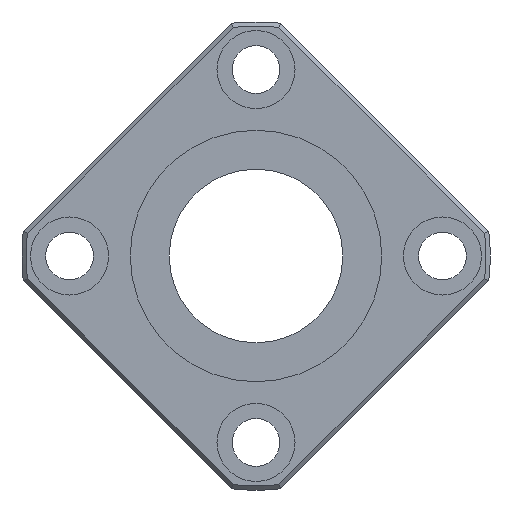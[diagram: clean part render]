
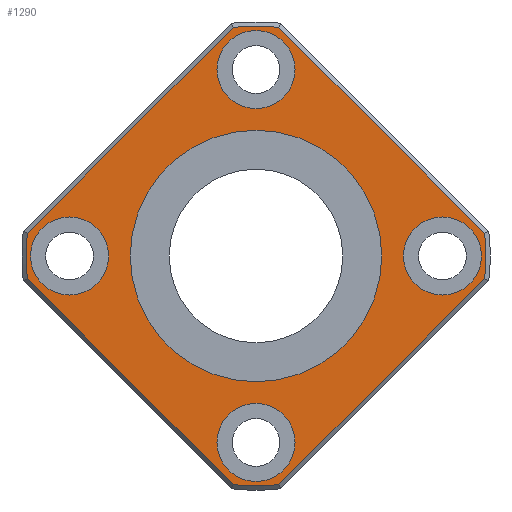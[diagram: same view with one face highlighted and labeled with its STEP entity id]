
A CAD part, left-side view. The second image highlights one B-rep face of the part: STEP entity #1290.
In plain terms, the highlighted planar face has unit normal (-1, 0, 0).
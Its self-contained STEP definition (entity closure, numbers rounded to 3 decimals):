
#866=CARTESIAN_POINT('',(0.0,2.621,-26.37));
#867=VERTEX_POINT('',#866);
#875=CARTESIAN_POINT('',(0.0,26.37,-2.621));
#876=VERTEX_POINT('',#875);
#877=CARTESIAN_POINT('',(0.0,2.621,-26.37));
#878=DIRECTION('',(0.0,0.707,0.707));
#879=VECTOR('',#878,33.586);
#880=LINE('',#877,#879);
#881=EDGE_CURVE('',#867,#876,#880,.T.);
#908=CARTESIAN_POINT('',(0.0,26.37,2.621));
#909=VERTEX_POINT('',#908);
#910=CARTESIAN_POINT('',(0.0,0.0,0.0));
#911=DIRECTION('',(1.0,0.0,0.0));
#912=DIRECTION('',(0.0,0.0,1.0));
#913=AXIS2_PLACEMENT_3D('',#910,#911,#912);
#914=CIRCLE('',#913,26.5);
#915=EDGE_CURVE('',#876,#909,#914,.T.);
#941=CARTESIAN_POINT('',(0.0,2.621,26.37));
#942=VERTEX_POINT('',#941);
#943=CARTESIAN_POINT('',(0.0,26.37,2.621));
#944=DIRECTION('',(0.0,-0.707,0.707));
#945=VECTOR('',#944,33.586);
#946=LINE('',#943,#945);
#947=EDGE_CURVE('',#909,#942,#946,.T.);
#974=CARTESIAN_POINT('',(0.0,-2.621,26.37));
#975=VERTEX_POINT('',#974);
#976=CARTESIAN_POINT('',(0.0,0.0,0.0));
#977=DIRECTION('',(1.0,0.0,0.0));
#978=DIRECTION('',(0.0,0.0,1.0));
#979=AXIS2_PLACEMENT_3D('',#976,#977,#978);
#980=CIRCLE('',#979,26.5);
#981=EDGE_CURVE('',#942,#975,#980,.T.);
#1007=CARTESIAN_POINT('',(0.0,-26.37,2.621));
#1008=VERTEX_POINT('',#1007);
#1009=CARTESIAN_POINT('',(0.0,-2.621,26.37));
#1010=DIRECTION('',(0.0,-0.707,-0.707));
#1011=VECTOR('',#1010,33.586);
#1012=LINE('',#1009,#1011);
#1013=EDGE_CURVE('',#975,#1008,#1012,.T.);
#1040=CARTESIAN_POINT('',(0.0,-26.37,-2.621));
#1041=VERTEX_POINT('',#1040);
#1042=CARTESIAN_POINT('',(0.0,0.0,0.0));
#1043=DIRECTION('',(1.0,0.0,0.0));
#1044=DIRECTION('',(0.0,0.0,1.0));
#1045=AXIS2_PLACEMENT_3D('',#1042,#1043,#1044);
#1046=CIRCLE('',#1045,26.5);
#1047=EDGE_CURVE('',#1008,#1041,#1046,.T.);
#1073=CARTESIAN_POINT('',(0.0,-2.621,-26.37));
#1074=VERTEX_POINT('',#1073);
#1075=CARTESIAN_POINT('',(0.0,-26.37,-2.621));
#1076=DIRECTION('',(0.0,0.707,-0.707));
#1077=VECTOR('',#1076,33.586);
#1078=LINE('',#1075,#1077);
#1079=EDGE_CURVE('',#1041,#1074,#1078,.T.);
#1104=CARTESIAN_POINT('',(0.0,0.0,0.0));
#1105=DIRECTION('',(1.0,0.0,0.0));
#1106=DIRECTION('',(0.0,0.0,-1.0));
#1107=AXIS2_PLACEMENT_3D('',#1104,#1105,#1106);
#1108=CIRCLE('',#1107,26.5);
#1109=EDGE_CURVE('',#1074,#867,#1108,.T.);
#1220=CARTESIAN_POINT('',(0.0,0.0,15.25));
#1221=DIRECTION('',(-1.0,0.0,0.0));
#1222=DIRECTION('',(0.0,0.0,1.0));
#1223=AXIS2_PLACEMENT_3D('',#1220,#1221,#1222);
#1224=PLANE('',#1223);
#1225=ORIENTED_EDGE('',*,*,#881,.F.);
#1226=ORIENTED_EDGE('',*,*,#1109,.F.);
#1227=ORIENTED_EDGE('',*,*,#1079,.F.);
#1228=ORIENTED_EDGE('',*,*,#1047,.F.);
#1229=ORIENTED_EDGE('',*,*,#1013,.F.);
#1230=ORIENTED_EDGE('',*,*,#981,.F.);
#1231=ORIENTED_EDGE('',*,*,#947,.F.);
#1232=ORIENTED_EDGE('',*,*,#915,.F.);
#1233=EDGE_LOOP('',(#1225,#1226,#1227,#1228,#1229,#1230,#1231,#1232));
#1234=FACE_OUTER_BOUND('',#1233,.T.);
#1235=CARTESIAN_POINT('',(0.0,0.0,14.5));
#1236=VERTEX_POINT('',#1235);
#1237=CARTESIAN_POINT('',(0.0,0.0,0.0));
#1238=DIRECTION('',(-1.0,0.0,0.0));
#1239=DIRECTION('',(0.0,0.0,1.0));
#1240=AXIS2_PLACEMENT_3D('',#1237,#1238,#1239);
#1241=CIRCLE('',#1240,14.5);
#1242=EDGE_CURVE('',#1236,#1236,#1241,.T.);
#1243=ORIENTED_EDGE('',*,*,#1242,.F.);
#1244=EDGE_LOOP('',(#1243));
#1245=FACE_BOUND('',#1244,.T.);
#1246=CARTESIAN_POINT('',(0.0,-17.0,0.));
#1247=VERTEX_POINT('',#1246);
#1248=CARTESIAN_POINT('',(0.0,-21.5,0.));
#1249=DIRECTION('',(1.0,0.0,0.0));
#1250=DIRECTION('',(0.0,1.0,0.0));
#1251=AXIS2_PLACEMENT_3D('',#1248,#1249,#1250);
#1252=CIRCLE('',#1251,4.5);
#1253=EDGE_CURVE('',#1247,#1247,#1252,.T.);
#1254=ORIENTED_EDGE('',*,*,#1253,.T.);
#1255=EDGE_LOOP('',(#1254));
#1256=FACE_BOUND('',#1255,.T.);
#1257=CARTESIAN_POINT('',(0.0,26.0,0.));
#1258=VERTEX_POINT('',#1257);
#1259=CARTESIAN_POINT('',(0.0,21.5,0.));
#1260=DIRECTION('',(1.0,0.0,0.0));
#1261=DIRECTION('',(0.0,1.0,0.0));
#1262=AXIS2_PLACEMENT_3D('',#1259,#1260,#1261);
#1263=CIRCLE('',#1262,4.5);
#1264=EDGE_CURVE('',#1258,#1258,#1263,.T.);
#1265=ORIENTED_EDGE('',*,*,#1264,.T.);
#1266=EDGE_LOOP('',(#1265));
#1267=FACE_BOUND('',#1266,.T.);
#1268=CARTESIAN_POINT('',(0.0,4.5,21.5));
#1269=VERTEX_POINT('',#1268);
#1270=CARTESIAN_POINT('',(0.0,0.,21.5));
#1271=DIRECTION('',(1.0,0.0,0.0));
#1272=DIRECTION('',(0.0,1.0,0.0));
#1273=AXIS2_PLACEMENT_3D('',#1270,#1271,#1272);
#1274=CIRCLE('',#1273,4.5);
#1275=EDGE_CURVE('',#1269,#1269,#1274,.T.);
#1276=ORIENTED_EDGE('',*,*,#1275,.T.);
#1277=EDGE_LOOP('',(#1276));
#1278=FACE_BOUND('',#1277,.T.);
#1279=CARTESIAN_POINT('',(0.0,4.5,-21.5));
#1280=VERTEX_POINT('',#1279);
#1281=CARTESIAN_POINT('',(0.0,0.,-21.5));
#1282=DIRECTION('',(1.0,0.0,0.0));
#1283=DIRECTION('',(0.0,1.0,0.0));
#1284=AXIS2_PLACEMENT_3D('',#1281,#1282,#1283);
#1285=CIRCLE('',#1284,4.5);
#1286=EDGE_CURVE('',#1280,#1280,#1285,.T.);
#1287=ORIENTED_EDGE('',*,*,#1286,.T.);
#1288=EDGE_LOOP('',(#1287));
#1289=FACE_BOUND('',#1288,.T.);
#1290=ADVANCED_FACE('',(#1234,#1245,#1256,#1267,#1278,#1289),#1224,.T.);
